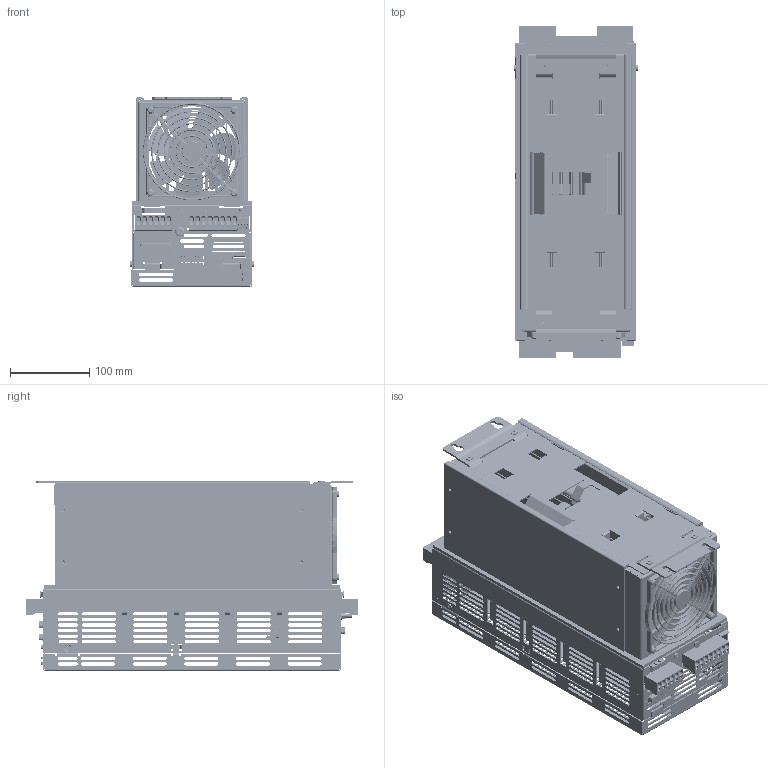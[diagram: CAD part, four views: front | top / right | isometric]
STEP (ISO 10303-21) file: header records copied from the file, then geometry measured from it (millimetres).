
FILE_DESCRIPTION (( 'STEP AP214' ), '1' );
FILE_NAME ('SDD310 support.STEP', '2015-09-04T06:31:44', ( 'SIGMATEK GmbH & Co KG' ), ( 'SIGMATEK GmbH & Co KG' ), 'SwSTEP 2.0', 'SolidWorks 2013', '' );
FILE_SCHEMA (( 'AUTOMOTIVE_DESIGN' ));
Length unit declared in the file: millimetre
Products named in the file (29): Halteblech oben; Basisblech; Dichtung; Gehäuseschale; SDD310-4 K黨lk鰎per; Flachkopfschraube ISO 7045 (DIN 7985) M3 x 6 - Z7 - 4.8 - H - A2F; ---------- 8pol. Federkraftstecker SPS5 7,62 1996074; VAC013 kpl; ---------- 6pol. Federkraftstecker SPC5 1996058; 1953774; 4060212239 RJ45 09 35 002 2101; 4070212048-1 D-SUB 25pol 1658610-2; VAC014 Front; Sicherungsklammer neu; Flachkopfschraube ISO 7045 (DIN 7985) M4 x 8 - Z7 - 4.8 - H - A2F; Abdeckblech; M5 Mutter mit Sperrverzahnung_0508002504 Hexagon flange nuts DIN 6923  M5; Lüftereinheit; Zylinderschraube M4x6 Innensechsrund  mit extrem niedrigem Kopf; 3030261317 SR4100-L-B Sonderspreizniet_Spreizniet eingerastet; PT-Senkschraube UN13576 KA40 x 10  St-verzinkt; 3030202108 Lüfter; 3030202109 Lüftergitter; 3030301064 BN9524 M5x08; Lüfterblech; SDD310 support; 1010801103 Ballastwid 33ohm 43cm; Halteblech unten
Assembly tree (47 placements, depth 3):
  SDD310 support
    3030301064 BN9524 M5x08  x8
    PT-Senkschraube UN13576 KA40 x 10  St-verzinkt
    Zylinderschraube M4x6 Innensechsrund  mit extrem niedrigem Kopf  x2
    M5 Mutter mit Sperrverzahnung_0508002504 Hexagon flange nuts DIN 6923  M5
    Flachkopfschraube ISO 7045 (DIN 7985) M4 x 8 - Z7 - 4.8 - H - A2F  x3
    VAC013 kpl
      VAC014 Front
      4060212239 RJ45 09 35 002 2101  x2
      1953774
    Flachkopfschraube ISO 7045 (DIN 7985) M3 x 6 - Z7 - 4.8 - H - A2F  x2
    SDD310-4 K黨lk鰎per
    Gehäuseschale
    Dichtung
    Basisblech
      Basisblech
      Halteblech oben
      Halteblech unten
      1010801103 Ballastwid 33ohm 43cm
    Lüftereinheit
      Lüfterblech
      3030202109 Lüftergitter
      3030202108 Lüfter
      3030261317 SR4100-L-B Sonderspreizniet_Spreizniet eingerastet  x4
    Abdeckblech
    Sicherungsklammer neu
    4070212048-1 D-SUB 25pol 1658610-2  x3
    ---------- 6pol. Federkraftstecker SPC5 1996058  x3
    ---------- 8pol. Federkraftstecker SPS5 7,62 1996074
Bounding box: 155 x 417.93 x 239.4 mm (x, y, z)
Volume: 2782316.6 mm3; surface area: 1687073.2 mm2
Topology: 52 solids, 52 shells, 8669 faces, 22939 edges, 14650 vertices
Faces by surface type: plane 5150, cylinder 2819, torus 356, cone 240, bspline 92, sphere 12
Entity records: 237921 total; most frequent: CARTESIAN_POINT 46118, ORIENTED_EDGE 36484, DIRECTION 35508, EDGE_CURVE 18242, LINE 12310, VECTOR 12310, VERTEX_POINT 11670, AXIS2_PLACEMENT_3D 11599
